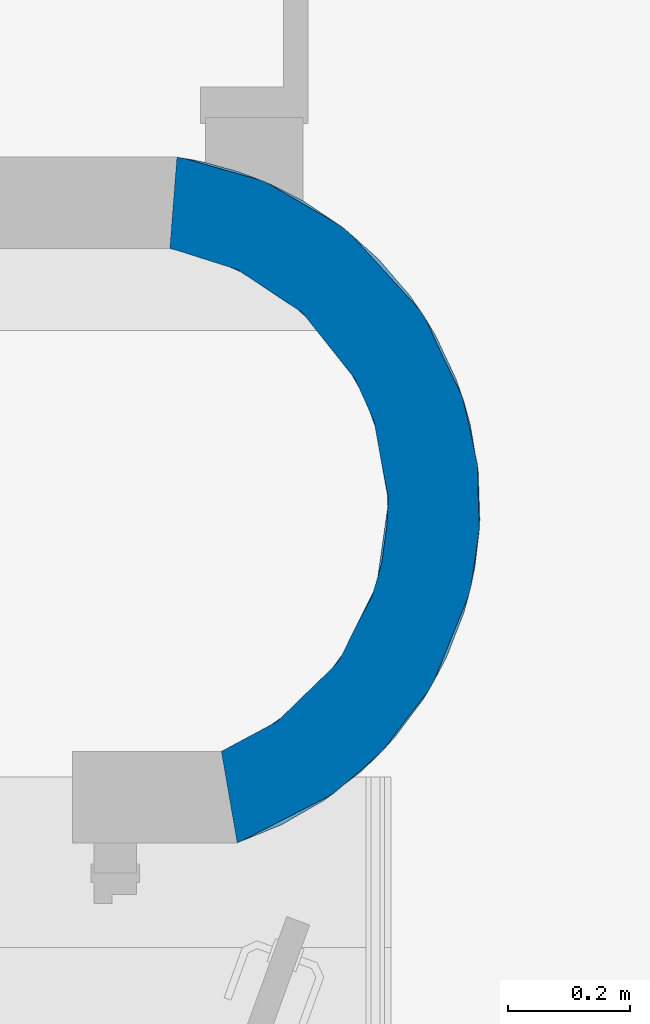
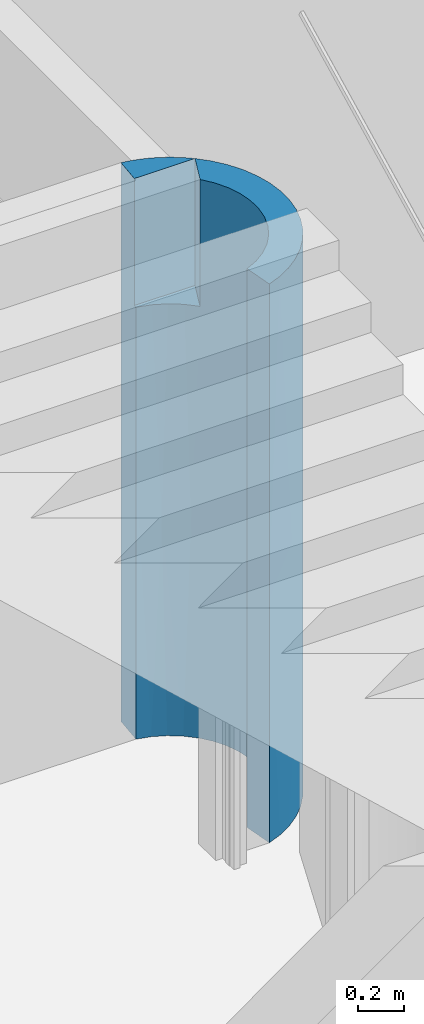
# One storey, part 4 of 10: 1 wall.
"""IFC2X3 building model written with IfcOpenShell, lengths in metres."""

import ifcopenshell
import ifcopenshell.guid

model = None  # the IFC model being written
_history = None  # IfcOwnerHistory: only IFC2X3 demands one
_inside = {}  # id of a spatial element -> (the spatial element, [elements in it])
_under = {}  # id of a project, library or spatial element -> (it, [spatial elements below it])
_declared = {}  # id of a project -> (the project, [libraries it declares])
_typed = {}  # id of a type object -> (the type object, [elements of that type])
_made_of = {}  # id of a material, layer set ... -> (it, [elements and type objects made of it])


def new_model(schema):
    """Start an empty IFC model of exactly this schema.

    Asked for "IFC4X3", IfcOpenShell would pick the latest addendum, in which some entities
    have other attributes; the version numbers below select the first issue.
    IFC2X3 requires an IfcOwnerHistory on every rooted entity: one is made here for all.
    """
    global model, _history
    if schema == "IFC4X3":
        model = ifcopenshell.file(schema_version=(4, 3, 0, 0))
    else:
        model = ifcopenshell.file(schema=schema)
    _inside.clear()
    _under.clear()
    _declared.clear()
    _typed.clear()
    _made_of.clear()
    _history = None
    if model.schema == "IFC2X3":
        org = make("IfcOrganization", Name="unknown")
        user = make(
            "IfcPersonAndOrganization",
            ThePerson=make("IfcPerson", FamilyName="unknown"),
            TheOrganization=org,
        )
        app = make(
            "IfcApplication",
            ApplicationDeveloper=org,
            Version="unknown",
            ApplicationFullName="unknown",
            ApplicationIdentifier="unknown",
        )
        _history = make(
            "IfcOwnerHistory",
            OwningUser=user,
            OwningApplication=app,
            ChangeAction="ADDED",
            CreationDate=0,
        )
    return model


def make(cls, **values):
    """One entity of the class cls with the attributes given. An attribute that is None is left unset."""
    return model.create_entity(
        cls, **{name: value for name, value in values.items() if value is not None}
    )


def entity(cls, *values):
    """Any entity or typed value of the class cls, its attributes in the order of the schema. None: left unset."""
    e = model.create_entity(cls)
    for i, value in enumerate(values):
        if value is not None:
            e[i] = value
    return e


def rooted(cls, **values):
    """An entity with a GlobalId (a new one), such as an element, a storey or a relation."""
    return make(cls, GlobalId=ifcopenshell.guid.new(), OwnerHistory=_history, **values)


def si_unit(unit_type, name, prefix=None):
    """IfcSIUnit, for example si_unit("LENGTHUNIT", "METRE", prefix="MILLI")."""
    return make("IfcSIUnit", UnitType=unit_type, Prefix=prefix, Name=name)


def converted_unit(unit_type, name, factor, base, dimensions=None, offset=None):
    """IfcConversionBasedUnit, such as the inch: factor (a typed value) times the base unit."""
    return make(
        "IfcConversionBasedUnit"
        if offset is None
        else "IfcConversionBasedUnitWithOffset",
        ConversionOffset=offset,
        Dimensions=None
        if dimensions is None
        else entity("IfcDimensionalExponents", *dimensions),
        UnitType=unit_type,
        Name=name,
        ConversionFactor=make(
            "IfcMeasureWithUnit", ValueComponent=factor, UnitComponent=base
        ),
    )


def derived_unit(unit_type, elements):
    """IfcDerivedUnit: a product of units, each with its exponent."""
    return make(
        "IfcDerivedUnit",
        Elements=[
            make("IfcDerivedUnitElement", Unit=unit, Exponent=power)
            for unit, power in elements
        ],
        UnitType=unit_type,
    )


def assignment(units):
    """IfcUnitAssignment: the units of a project."""
    return None if units is None else make("IfcUnitAssignment", Units=units)


def point(xyz):
    """IfcCartesianPoint."""
    return None if xyz is None else make("IfcCartesianPoint", Coordinates=xyz)


def direction(xyz):
    """IfcDirection."""
    return None if xyz is None else make("IfcDirection", DirectionRatios=xyz)


def frame(location, z_axis=None, x_axis=None):
    """IfcAxis2Placement3D, a coordinate frame: its origin and axes. An axis left out is left unset."""
    return make(
        "IfcAxis2Placement3D",
        Location=point(location),
        Axis=direction(z_axis),
        RefDirection=direction(x_axis),
    )


def origin():
    """The frame at (0, 0, 0) with its axes left unset."""
    return frame((0.0, 0.0, 0.0))


def place(relative_to, where):
    """IfcLocalPlacement: puts the frame where relative to a parent placement (None: the world)."""
    return make(
        "IfcLocalPlacement", PlacementRelTo=relative_to, RelativePlacement=where
    )


def context(
    kind, dimensions, precision=None, world=None, true_north=None, identifier=None
):
    """IfcGeometricRepresentationContext, for example the 3D "Model" context."""
    return make(
        "IfcGeometricRepresentationContext",
        ContextIdentifier=identifier,
        ContextType=kind,
        CoordinateSpaceDimension=dimensions,
        Precision=precision,
        WorldCoordinateSystem=world,
        TrueNorth=true_north,
    )


def subcontext(parent, identifier, kind, view, scale=None):
    """IfcGeometricRepresentationSubContext, for example "Body" below "Model"."""
    return make(
        "IfcGeometricRepresentationSubContext",
        ContextIdentifier=identifier,
        ContextType=kind,
        ParentContext=parent,
        TargetScale=scale,
        TargetView=view,
    )


def project(units=None, contexts=None):
    """IfcProject with its units and contexts."""
    return rooted(
        "IfcProject",
        Name="project",
        RepresentationContexts=contexts,
        UnitsInContext=assignment(units),
    )


def spatial(cls, under=None, at=None, **own):
    """A site, building, storey or space (cls), placed at a placement, below another one or the project."""
    s = rooted(cls, ObjectPlacement=at, **own)
    if under is not None:
        _under.setdefault(under.id(), (under, []))[1].append(s)
    return s


def faces_of(points, faces, orient=None, outer=None):
    """IfcFace entities. A face is a list of loops; a loop is a list of indices into points, from 0.

    orient and outer hold one flag for each loop. By default every Orientation is true, the
    first loop of a face is its IfcFaceOuterBound and the others are IfcFaceBound.
    """
    made = []
    for i, loops in enumerate(faces):
        bounds = []
        for j, loop in enumerate(loops):
            is_outer = j == 0 if outer is None else outer[i][j]
            bounds.append(
                make(
                    "IfcFaceOuterBound" if is_outer else "IfcFaceBound",
                    Bound=make("IfcPolyLoop", Polygon=[points[k] for k in loop]),
                    Orientation=True if orient is None else orient[i][j],
                )
            )
        made.append(make("IfcFace", Bounds=bounds))
    return made


def faceted_brep(points, faces, orient=None, outer=None, voids=None):
    """IfcFacetedBrep: a solid bounded by flat faces; with voids (closed shells), ...WithVoids."""
    shared = [point(p) for p in points]
    hull = make("IfcClosedShell", CfsFaces=faces_of(shared, faces, orient, outer))
    if voids is None:
        return make("IfcFacetedBrep", Outer=hull)
    return make(
        "IfcFacetedBrepWithVoids",
        Outer=hull,
        Voids=[
            make(cls, CfsFaces=faces_of(shared, fs, o, b)) for cls, fs, o, b in voids
        ],
    )


def shape(context_of_items, identifier, shape_type, items):
    """IfcShapeRepresentation: the items that make up one representation, for example the "Body"."""
    return make(
        "IfcShapeRepresentation",
        ContextOfItems=context_of_items,
        RepresentationIdentifier=identifier,
        RepresentationType=shape_type,
        Items=items,
    )


def material(Name=None, Category=None):
    """IfcMaterial."""
    return make("IfcMaterial", Name=Name, Category=Category)


def layer(
    of_material, thickness, ventilated=None, Name=None, Category=None, Priority=None
):
    """IfcMaterialLayer: one layer of a wall or slab, of a material (None: an air gap)."""
    return make(
        "IfcMaterialLayer",
        Material=of_material,
        LayerThickness=thickness,
        IsVentilated=ventilated,
        Name=Name,
        Category=Category,
        Priority=Priority,
    )


def layer_set(layers, Name=None):
    """IfcMaterialLayerSet."""
    return make("IfcMaterialLayerSet", MaterialLayers=layers, LayerSetName=Name)


def made_of(thing, what):
    """Note that an element or type object is made of a material, layer set ...; save() writes the relation."""
    if what is not None:
        _made_of.setdefault(what.id(), (what, []))[1].append(thing)
    return thing


def type_object(cls, material=None, **own):
    """A type object (cls), such as IfcWallType, which elements share."""
    return made_of(rooted(cls, **own), material)


def element(
    cls,
    number,
    at=None,
    inside=None,
    cuts=None,
    type_object=None,
    material=None,
    context=None,
    identifier="Body",
    shape_type=None,
    held_by="IfcProductDefinitionShape",
    body=None,
    shapes=None,
    **own,
):
    """One element of the class cls, such as IfcWall. Its Tag is "e" and its number.

    at: its placement. inside: the storey or other place that contains it. cuts: it is an
    opening in that element (IfcRelVoidsElement). A single representation is given by context,
    identifier, shape_type and body (its items); several are given by shapes. held_by: the class
    of the entity that holds the representations. save() writes the other relations.
    """
    e = rooted(cls, Tag="e%d" % number, ObjectPlacement=at, **own)
    if body is not None:
        shapes = [shape(context, identifier, shape_type, body)]
    if shapes is not None:
        e.Representation = make(held_by, Representations=shapes)
    if inside is not None:
        _inside.setdefault(inside.id(), (inside, []))[1].append(e)
    if cuts is not None:
        rooted(
            "IfcRelVoidsElement", RelatingBuildingElement=cuts, RelatedOpeningElement=e
        )
    if type_object is not None:
        _typed.setdefault(type_object.id(), (type_object, []))[1].append(e)
    return made_of(e, material)


def aggregate(whole, parts):
    """IfcRelAggregates: a whole, such as a stair, and the parts it consists of."""
    return rooted("IfcRelAggregates", RelatingObject=whole, RelatedObjects=parts)


def save(model, path):
    """Write the relations noted so far, then the file.

    IfcRelAggregates (storeys below a building ...), IfcRelContainedInSpatialStructure (elements
    in a storey), IfcRelDefinesByType, IfcRelAssociatesMaterial and IfcRelDeclares: one each for
    every whole, place, type object, material and project.
    """
    for whole, parts in _under.values():
        aggregate(whole, parts)
    for where, things in _inside.values():
        rooted(
            "IfcRelContainedInSpatialStructure",
            RelatedElements=things,
            RelatingStructure=where,
        )
    for kind, things in _typed.values():
        rooted("IfcRelDefinesByType", RelatedObjects=things, RelatingType=kind)
    for what, things in _made_of.values():
        rooted("IfcRelAssociatesMaterial", RelatedObjects=things, RelatingMaterial=what)
    for by, libraries in _declared.values():
        rooted("IfcRelDeclares", RelatingContext=by, RelatedDefinitions=libraries)
    model.write(path)


model = new_model("IFC2X3")

# Units and contexts
model_context = context("Model", 3, precision=1e-05, world=origin(), true_north=direction((6.12303176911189e-17, 1.0)))
body_context = subcontext(model_context, "Body", "Model", "MODEL_VIEW")
ifc_project = project(units=[si_unit("LENGTHUNIT", "METRE"), si_unit("AREAUNIT", "SQUARE_METRE"), si_unit("VOLUMEUNIT", "CUBIC_METRE"), converted_unit("PLANEANGLEUNIT", "DEGREE", entity("IfcRatioMeasure", 0.0174532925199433), si_unit("PLANEANGLEUNIT", "RADIAN"), dimensions=[0, 0, 0, 0, 0, 0, 0]), si_unit("MASSUNIT", "GRAM", prefix="KILO"), derived_unit("MASSDENSITYUNIT", [(si_unit("MASSUNIT", "GRAM", prefix="KILO"), 1), (si_unit("LENGTHUNIT", "METRE"), -3)]), derived_unit("MOMENTOFINERTIAUNIT", [(si_unit("LENGTHUNIT", "METRE"), 4)]), si_unit("TIMEUNIT", "SECOND"), si_unit("FREQUENCYUNIT", "HERTZ"), si_unit("THERMODYNAMICTEMPERATUREUNIT", "DEGREE_CELSIUS"), derived_unit("THERMALTRANSMITTANCEUNIT", [(si_unit("MASSUNIT", "GRAM", prefix="KILO"), 1), (si_unit("THERMODYNAMICTEMPERATUREUNIT", "KELVIN"), -1), (si_unit("TIMEUNIT", "SECOND"), -3)]), derived_unit("VOLUMETRICFLOWRATEUNIT", [(si_unit("LENGTHUNIT", "METRE"), 3), (si_unit("TIMEUNIT", "SECOND"), -1)]), si_unit("ELECTRICCURRENTUNIT", "AMPERE"), si_unit("ELECTRICVOLTAGEUNIT", "VOLT"), si_unit("POWERUNIT", "WATT"), si_unit("FORCEUNIT", "NEWTON", prefix="KILO"), si_unit("ILLUMINANCEUNIT", "LUX"), si_unit("LUMINOUSFLUXUNIT", "LUMEN"), si_unit("LUMINOUSINTENSITYUNIT", "CANDELA"), derived_unit("USERDEFINED", [(si_unit("MASSUNIT", "GRAM", prefix="KILO"), -1), (si_unit("LENGTHUNIT", "METRE"), -2), (si_unit("TIMEUNIT", "SECOND"), 3), (si_unit("LUMINOUSFLUXUNIT", "LUMEN"), 1)]), derived_unit("LINEARVELOCITYUNIT", [(si_unit("LENGTHUNIT", "METRE"), 1), (si_unit("TIMEUNIT", "SECOND"), -1)]), si_unit("PRESSUREUNIT", "PASCAL"), derived_unit("USERDEFINED", [(si_unit("LENGTHUNIT", "METRE"), -2), (si_unit("MASSUNIT", "GRAM", prefix="KILO"), 1), (si_unit("TIMEUNIT", "SECOND"), -2)]), derived_unit("LINEARFORCEUNIT", [(si_unit("MASSUNIT", "GRAM", prefix="KILO"), 1), (si_unit("LENGTHUNIT", "METRE"), 1), (si_unit("TIMEUNIT", "SECOND"), -2), (si_unit("LENGTHUNIT", "METRE"), -1)]), derived_unit("PLANARFORCEUNIT", [(si_unit("MASSUNIT", "GRAM", prefix="KILO"), 1), (si_unit("LENGTHUNIT", "METRE"), 1), (si_unit("TIMEUNIT", "SECOND"), -2), (si_unit("LENGTHUNIT", "METRE"), -2)])], contexts=[model_context])

# Site, building, storey
site_placement = place(None, origin())
site = spatial("IfcSite", under=ifc_project, at=site_placement, Name="Default", CompositionType="ELEMENT")
building_placement = place(site_placement, origin())
building = spatial("IfcBuilding", under=site, at=building_placement, CompositionType="ELEMENT")
storey_placement = place(building_placement, frame((0.0, 0.0, 0.893308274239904)))
storey = spatial("IfcBuildingStorey", under=building, at=storey_placement, Name="Niveau 00 - 02", CompositionType="ELEMENT", Elevation=0.893308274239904)

# Wall
ifc_material = material(Name="Maçonnerie - Voile BA")
ifc_layer = layer(ifc_material, 0.15)
ifc_layer_set = layer_set([ifc_layer], Name="Mur de base:Ext. Voile BA 150")
wall_type = type_object("IfcWallType", Name="Mur de base:Ext. Voile BA 150", PredefinedType="STANDARD", material=ifc_layer_set)
wall_placement = place(storey_placement, frame((-6.16948302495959, 0.967499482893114, 0.0), z_axis=(0.0, 0.0, 1.0), x_axis=(0.0, 1.0, 0.0)))
element("IfcWall", 1, at=wall_placement, inside=storey, type_object=wall_type, Name="Mur de base:Ext. Voile BA 150", ObjectType="Mur de base:Ext. Voile BA 150", context=body_context, shape_type="Brep", body=[
    faceted_brep([(0.952563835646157, -0.17726977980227, 2.97856448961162), (0.981895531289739, -0.131476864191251, 2.97856448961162), (1.0081079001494, -0.0802971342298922, 2.97856448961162), (1.02911772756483, -0.0267742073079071, 2.97856448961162), (1.04469205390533, 0.028447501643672, 2.97856448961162), (1.04955443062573, 0.0518258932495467, 2.97856448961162), (1.05344619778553, 0.0753868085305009, 2.97856448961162), (0.91900020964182, 0.0857475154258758, 2.97856448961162), (0.919000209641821, -0.220189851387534, 2.97856448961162), (0.0369296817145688, -0.00477768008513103, 2.97856448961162), (-0.071228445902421, -0.0234842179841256, 2.97856448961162), (-0.0435352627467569, -0.0923190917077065, 2.97856448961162), (-0.00728577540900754, -0.157044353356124, 2.97856448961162), (0.0369296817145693, -0.216611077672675, 2.97856448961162), (0.0905138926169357, -0.271977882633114, 2.97856448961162), (0.150958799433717, -0.319747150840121, 2.97856448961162), (0.217201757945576, -0.359081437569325, 2.97856448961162), (0.288071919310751, -0.389286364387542, 2.97856448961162), (0.362318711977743, -0.409829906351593, 2.97856448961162), (0.438632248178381, -0.420350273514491, 2.97856448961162), (0.515666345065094, -0.420662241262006, 2.97856448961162), (0.59206217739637, -0.410760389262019, 2.97856448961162), (0.666472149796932, -0.390819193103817, 2.97856448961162), (0.73758357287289, -0.361189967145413, 2.97856448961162), (0.804141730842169, -0.322394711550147, 2.97856448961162), (0.864971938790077, -0.275116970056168, 2.97856448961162), (0.769000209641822, -0.15968898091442, 2.97856448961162), (0.714097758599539, -0.202130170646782, 2.97856448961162), (0.653081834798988, -0.235184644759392, 2.97856448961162), (0.587542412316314, -0.257991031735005, 2.97856448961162), (0.51918733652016, -0.26995501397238, 2.97856448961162), (0.449797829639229, -0.270764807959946, 2.97856448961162), (0.381182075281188, -0.260399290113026, 2.97856448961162), (0.315128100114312, -0.23912854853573, 2.97856448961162), (0.253357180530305, -0.207506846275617, 2.97856448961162), (0.197478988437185, -0.166358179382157, 2.97856448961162), (0.148949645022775, -0.116754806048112, 2.97856448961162), (0.109033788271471, -0.0599893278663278, 2.97856448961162), (0.0787715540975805, 0.00245909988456, 2.97856448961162), (0.232273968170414, -0.366453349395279, 0.0), (0.163773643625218, -0.328309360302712, 0.0), (0.101044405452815, -0.281272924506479, 0.0), (0.0452331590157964, -0.22620359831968, 0.0), (-0.00263956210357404, -0.164107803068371, 0.0), (-0.0416979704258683, -0.0961210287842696, 0.0), (-0.0712284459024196, -0.0234842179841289, 0.0), (0.0787715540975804, 0.00245909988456, 0.0), (0.109296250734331, -0.0604345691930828, 0.0), (0.149611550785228, -0.117548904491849, 0.0), (0.198651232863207, -0.16737339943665, 0.0), (0.255118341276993, -0.208590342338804, 0.0), (0.317519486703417, -0.240109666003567, 0.0), (0.384204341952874, -0.261097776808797, 0.0), (0.453409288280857, -0.270999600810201, 0.0), (0.523304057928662, -0.269553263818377, 0.0), (0.592040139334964, -0.256797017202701, 0.0), (0.657799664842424, -0.233068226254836, 0.0), (0.718843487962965, -0.19899444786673, 0.0), (0.773557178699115, -0.155476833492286, 0.0), (0.820493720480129, -0.103666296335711, 0.0), (0.858411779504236, -0.0449330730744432, 0.0), (0.886308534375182, 0.0191695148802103, 0.0), (0.903446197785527, 0.0869461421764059, 0.0), (1.05344619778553, 0.0753868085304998, 0.0), (1.04955457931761, 0.0518266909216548, 0.0), (1.04469271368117, 0.0284496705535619, 0.0), (1.02911765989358, -0.0267744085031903, 0.0), (1.00810859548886, -0.0802955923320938, 0.0), (0.98189544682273, -0.13147764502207, 0.0), (0.938251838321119, -0.196596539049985, 0.0), (0.886213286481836, -0.255239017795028, 0.0), (0.826740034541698, -0.306325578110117, 0.0), (0.76091923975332, -0.348922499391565, 0.0), (0.689954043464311, -0.382251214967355, 0.0), (0.615141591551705, -0.405702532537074, 0.0), (0.537849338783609, -0.418847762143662, 0.0), (0.459490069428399, -0.421446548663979, 0.0), (0.381496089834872, -0.413451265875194, 0.0), (0.30529306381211, -0.395007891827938, 0.0), (0.869421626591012, -0.0228891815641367, 1.15442548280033), (0.798080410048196, -0.130527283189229, 1.14447204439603), (0.513384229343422, -0.270453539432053, 1.91690762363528), (0.88580454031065, 0.0177022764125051, 2.30191613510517), (0.903446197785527, 0.0869461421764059, 1.44791120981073), (0.488386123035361, -0.271699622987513, 0.883026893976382), (0.350434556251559, -0.25196155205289, 0.852080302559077), (0.693356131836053, -0.214818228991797, 2.04485707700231), (0.689015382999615, -0.217274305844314, 0.891230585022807), (0.619535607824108, -0.248340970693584, 0.719981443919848), (0.769000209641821, -0.159688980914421, 2.30191613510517), (0.620773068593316, -0.247912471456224, 1.49425451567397), (0.0787715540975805, 0.00245909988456, 0.765326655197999), (0.0787715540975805, 0.00245909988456, 1.530653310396), (0.128290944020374, -0.0898126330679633, 1.07958220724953), (0.127844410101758, -0.089178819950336, 2.06025456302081), (0.2186837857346, -0.183636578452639, 2.25462531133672), (0.28360352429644, -0.224566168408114, 2.12178175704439), (0.226045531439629, -0.189131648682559, 1.48696707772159), (0.856936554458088, -0.0476627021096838, 2.30191613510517), (0.903446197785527, 0.0869461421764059, 2.30191613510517), (0.817639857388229, -0.107342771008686, 2.30191613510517), (0.415280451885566, -0.266968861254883, 1.49267599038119), (0.0138684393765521, -0.187535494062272, 1.49607872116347), (-0.0712284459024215, -0.0234842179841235, 1.29690852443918), (0.0770304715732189, -0.25938701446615, 0.945529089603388), (0.183426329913, -0.340515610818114, 1.53801332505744), (0.343082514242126, -0.405518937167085, 1.47522278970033), (0.441458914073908, -0.420543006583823, 0.974537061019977), (0.554028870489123, -0.416981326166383, 1.50419767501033), (0.0902955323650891, -0.271780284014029, 1.91861921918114), (0.447149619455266, -0.42088896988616, 1.95997433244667), (1.01372773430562, -0.067421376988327, 1.31475805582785), (1.05344619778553, 0.0753868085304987, 1.68165596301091), (0.936286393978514, -0.199124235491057, 1.49823341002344), (0.79455036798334, -0.328737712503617, 1.47208970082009), (0.65294460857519, -0.395242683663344, 0.90070429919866), (0.679772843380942, -0.386107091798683, 1.83066498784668), (0.91900020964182, -0.220189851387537, 2.30191613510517), (0.919000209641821, 0.0857475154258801, 2.30191613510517)], [[[0, 1, 2, 3, 4, 5, 6, 7, 8]], [[9, 10, 11, 12, 13, 14, 15, 16, 17, 18, 19, 20, 21, 22, 23, 24, 25, 8, 26, 27, 28, 29, 30, 31, 32, 33, 34, 35, 36, 37, 38]], [[39, 40, 41, 42, 43, 44, 45, 46, 47, 48, 49, 50, 51, 52, 53, 54, 55, 56, 57, 58, 59, 60, 61, 62, 63, 64, 65, 66, 67, 68, 69, 70, 71, 72, 73, 74, 75, 76, 77, 78]], [[79, 59, 80]], [[81, 30, 29]], [[82, 83, 79]], [[84, 53, 85]], [[86, 80, 87]], [[87, 56, 88]], [[86, 27, 89]], [[60, 79, 61]], [[28, 86, 90]], [[89, 27, 26]], [[91, 92, 93]], [[94, 92, 38]], [[29, 28, 90]], [[95, 96, 97]], [[79, 60, 59]], [[96, 33, 32]], [[79, 98, 82]], [[82, 99, 83]], [[47, 91, 93]], [[83, 62, 61]], [[79, 83, 61]], [[58, 80, 59]], [[58, 87, 80]], [[97, 94, 95]], [[48, 93, 49]], [[90, 87, 88]], [[100, 80, 89]], [[57, 56, 87]], [[100, 79, 80]], [[88, 54, 84]], [[32, 31, 101]], [[36, 35, 95]], [[84, 101, 81]], [[55, 88, 56]], [[34, 95, 35]], [[90, 88, 84]], [[93, 92, 94]], [[81, 90, 84]], [[85, 51, 50]], [[90, 86, 87]], [[27, 86, 28]], [[94, 37, 36]], [[33, 96, 34]], [[90, 81, 29]], [[96, 95, 34]], [[93, 48, 47]], [[93, 94, 97]], [[84, 85, 101]], [[89, 80, 86]], [[53, 84, 54]], [[85, 53, 52]], [[57, 87, 58]], [[31, 30, 81]], [[51, 85, 52]], [[94, 36, 95]], [[97, 50, 49]], [[96, 85, 97]], [[97, 85, 50]], [[49, 93, 97]], [[96, 32, 101]], [[46, 91, 47]], [[55, 54, 88]], [[85, 96, 101]], [[31, 81, 101]], [[100, 98, 79]], [[38, 37, 94]], [[13, 12, 102]], [[44, 103, 45]], [[41, 104, 42]], [[104, 40, 105]], [[106, 78, 77]], [[107, 75, 108]], [[39, 106, 105]], [[39, 78, 106]], [[109, 104, 105]], [[107, 108, 110]], [[44, 43, 102]], [[103, 102, 11]], [[3, 2, 111]], [[112, 6, 5]], [[102, 12, 11]], [[13, 102, 109]], [[103, 44, 102]], [[11, 10, 103]], [[105, 15, 109]], [[68, 113, 69]], [[106, 17, 105]], [[16, 15, 105]], [[17, 106, 18]], [[77, 76, 107]], [[16, 105, 17]], [[106, 110, 18]], [[114, 71, 70]], [[115, 75, 74]], [[110, 19, 18]], [[20, 19, 110]], [[108, 21, 20]], [[104, 43, 42]], [[74, 73, 115]], [[71, 114, 72]], [[114, 70, 113]], [[115, 114, 116]], [[115, 72, 114]], [[70, 69, 113]], [[112, 111, 65]], [[104, 109, 102]], [[13, 109, 14]], [[64, 112, 65]], [[65, 111, 66]], [[104, 41, 40]], [[113, 8, 25]], [[111, 68, 67]], [[104, 102, 43]], [[112, 5, 4]], [[21, 116, 22]], [[23, 22, 116]], [[39, 105, 40]], [[15, 14, 109]], [[113, 25, 114]], [[114, 25, 24]], [[107, 110, 106]], [[111, 112, 3]], [[0, 8, 113]], [[66, 111, 67]], [[0, 113, 1]], [[68, 111, 113]], [[107, 76, 75]], [[77, 107, 106]], [[111, 1, 113]], [[1, 111, 2]], [[115, 73, 72]], [[23, 116, 114]], [[64, 63, 112]], [[75, 115, 108]], [[4, 3, 112]], [[20, 110, 108]], [[108, 115, 116]], [[21, 108, 116]], [[23, 114, 24]], [[117, 118, 99, 82, 98, 100, 89]], [[118, 117, 8, 7]], [[9, 38, 92, 91, 46, 45, 103, 10]], [[118, 7, 6, 112, 63, 62, 83, 99]], [[8, 117, 89, 26]]]),
])

save(model, "model.ifc")
